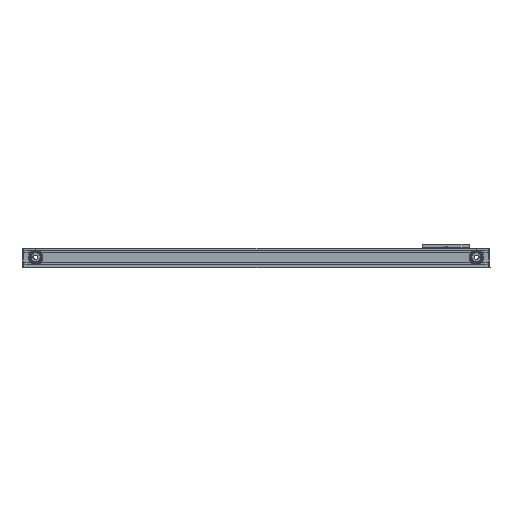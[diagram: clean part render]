
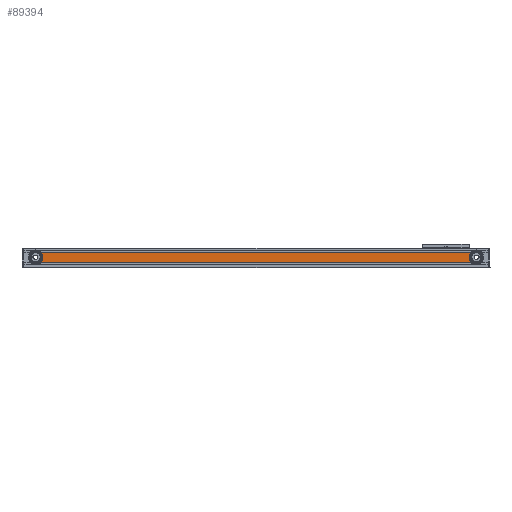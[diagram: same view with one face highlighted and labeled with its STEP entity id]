
A CAD part, top view. The second image highlights one B-rep face of the part: STEP entity #89394.
In plain terms, the highlighted planar face has unit normal (0, 0, 1).
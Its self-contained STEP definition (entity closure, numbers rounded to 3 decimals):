
#431 = CIRCLE ( 'NONE', #63526, 31. ) ;
#1421 = CIRCLE ( 'NONE', #123621, 31. ) ;
#13714 = DIRECTION ( 'NONE',  ( 0., 0., 1. ) ) ;
#15792 = ORIENTED_EDGE ( 'NONE', *, *, #117134, .T. ) ;
#16545 = VERTEX_POINT ( 'NONE', #98479 ) ;
#20781 = ORIENTED_EDGE ( 'NONE', *, *, #31072, .F. ) ;
#26016 = DIRECTION ( 'NONE',  ( -1., 0., 0. ) ) ;
#26424 = CARTESIAN_POINT ( 'NONE',  ( -91.244, 62.821, 83.366 ) ) ;
#28637 = VERTEX_POINT ( 'NONE', #26424 ) ;
#31072 = EDGE_CURVE ( 'NONE', #106844, #16545, #1421, .T. ) ;
#34827 = VERTEX_POINT ( 'NONE', #103745 ) ;
#34909 = CARTESIAN_POINT ( 'NONE',  ( -164.672, 103.421, 83.366 ) ) ;
#35406 = DIRECTION ( 'NONE',  ( 1., 0., 0. ) ) ;
#47206 = LINE ( 'NONE', #85513, #67538 ) ;
#47449 = ORIENTED_EDGE ( 'NONE', *, *, #125016, .T. ) ;
#53425 = EDGE_LOOP ( 'NONE', ( #47449, #20781, #15792, #120155 ) ) ;
#53937 = DIRECTION ( 'NONE',  ( 1., 0., 0. ) ) ;
#55734 = CARTESIAN_POINT ( 'NONE',  ( 1731.899, 103.421, 83.366 ) ) ;
#56321 = PLANE ( 'NONE',  #76070 ) ;
#59558 = EDGE_CURVE ( 'NONE', #34827, #28637, #431, .T. ) ;
#63152 = CARTESIAN_POINT ( 'NONE',  ( 1755.328, 83.121, 83.366 ) ) ;
#63526 = AXIS2_PLACEMENT_3D ( 'NONE', #95240, #116320, #26016 ) ;
#67494 = DIRECTION ( 'NONE',  ( 1., 0., 0. ) ) ;
#67538 = VECTOR ( 'NONE', #35406, 1000. ) ;
#72849 = VECTOR ( 'NONE', #75065, 1000. ) ;
#75065 = DIRECTION ( 'NONE',  ( -1., 0., 0. ) ) ;
#76070 = AXIS2_PLACEMENT_3D ( 'NONE', #126888, #124952, #67494 ) ;
#85405 = FACE_OUTER_BOUND ( 'NONE', #53425, .T. ) ;
#85513 = CARTESIAN_POINT ( 'NONE',  ( -164.672, 62.821, 83.366 ) ) ;
#89394 = ADVANCED_FACE ( 'NONE', ( #85405 ), #56321, .T. ) ;
#95240 = CARTESIAN_POINT ( 'NONE',  ( -114.672, 83.121, 83.366 ) ) ;
#98479 = CARTESIAN_POINT ( 'NONE',  ( 1731.899, 62.821, 83.366 ) ) ;
#103745 = CARTESIAN_POINT ( 'NONE',  ( -91.244, 103.421, 83.366 ) ) ;
#106844 = VERTEX_POINT ( 'NONE', #55734 ) ;
#116320 = DIRECTION ( 'NONE',  ( 0., 0., -1. ) ) ;
#117134 = EDGE_CURVE ( 'NONE', #106844, #34827, #125226, .T. ) ;
#120155 = ORIENTED_EDGE ( 'NONE', *, *, #59558, .T. ) ;
#123621 = AXIS2_PLACEMENT_3D ( 'NONE', #63152, #13714, #53937 ) ;
#124952 = DIRECTION ( 'NONE',  ( 0., 0., 1. ) ) ;
#125016 = EDGE_CURVE ( 'NONE', #28637, #16545, #47206, .T. ) ;
#125226 = LINE ( 'NONE', #34909, #72849 ) ;
#126888 = CARTESIAN_POINT ( 'NONE',  ( -164.672, 119.121, 83.366 ) ) ;
